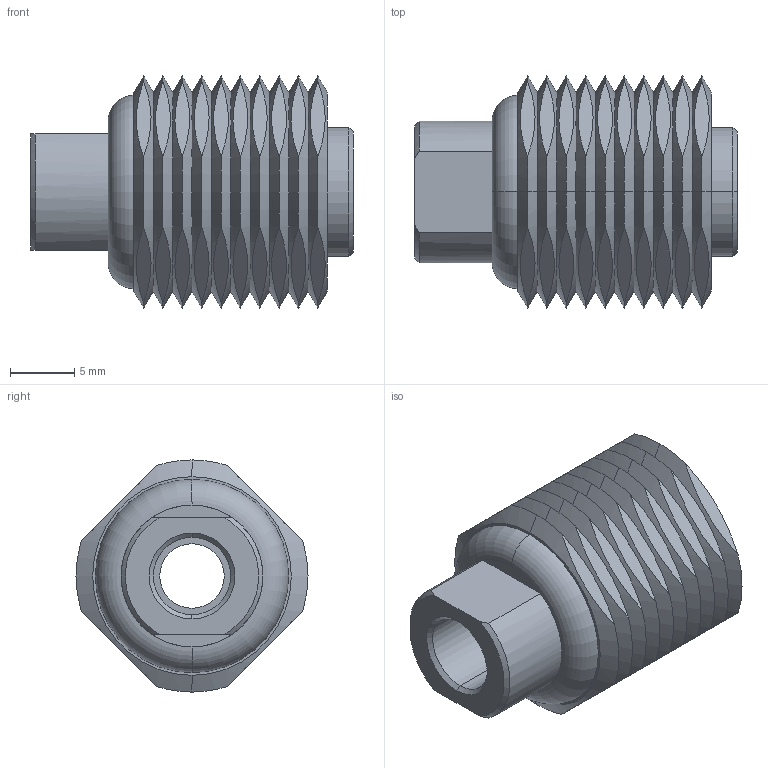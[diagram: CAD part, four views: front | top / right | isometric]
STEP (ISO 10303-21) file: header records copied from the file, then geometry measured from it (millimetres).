
FILE_DESCRIPTION (( 'STEP AP203' ), '1' );
FILE_NAME ('32790.W0180.step', '2013-07-26T15:10:31', ( 'Wixroyd' ), ( 'Wixroyd' ), 'SwSTEP 2.0', 'SolidWorks 2009', '' );
FILE_SCHEMA (( 'CONFIG_CONTROL_DESIGN' ));
Length unit declared in the file: millimetre
Products named in the file (3): 32790.W0180; Part1_32790.W0180; Part2_32790.W0180
Assembly tree (2 placements, depth 2):
  32790.W0180
    Part1_32790.W0180
    Part2_32790.W0180
Bounding box: 25 x 18 x 18 mm (x, y, z)
Volume: 3314 mm3; surface area: 3585.6 mm2
Topology: 2 solids, 2 shells, 116 faces, 278 edges, 170 vertices
Faces by surface type: plane 52, cone 48, cylinder 14, torus 2
Entity records: 4397 total; most frequent: CARTESIAN_POINT 1461, DIRECTION 562, ORIENTED_EDGE 556, EDGE_CURVE 278, AXIS2_PLACEMENT_3D 247, VERTEX_POINT 170, CIRCLE 126, EDGE_LOOP 124
